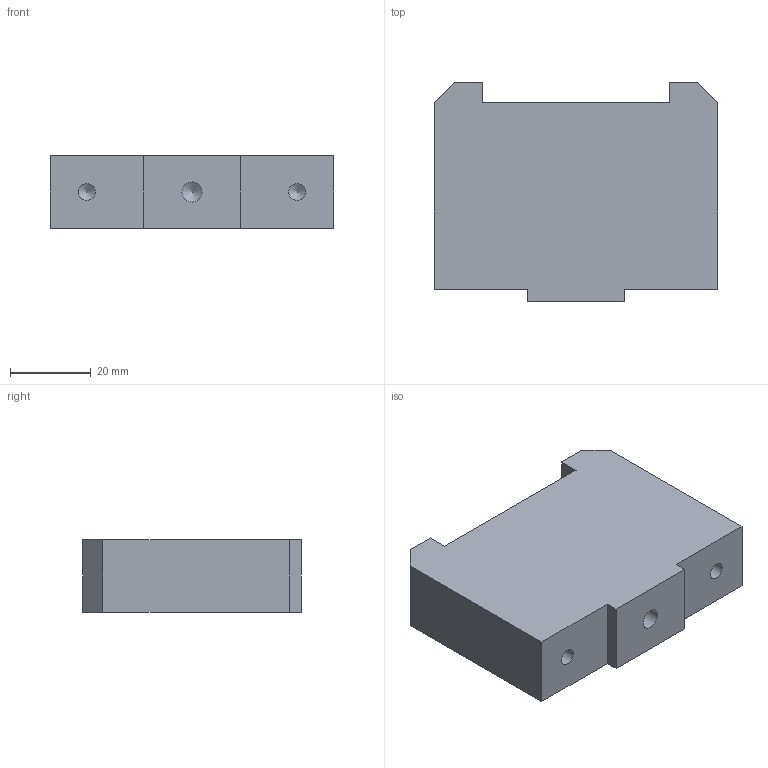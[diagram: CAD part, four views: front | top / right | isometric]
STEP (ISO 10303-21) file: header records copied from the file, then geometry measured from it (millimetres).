
FILE_DESCRIPTION((''),'2;1');
FILE_NAME('C:\Documents and Settings\hana-cad23\바탕 화면\390503E1005\390503E1005-블럭.stp','2019-05-25T11:34:01',('hana-cad23'),(''),'Autodesk Inventor 2013','Autodesk Inventor 2013','');
FILE_SCHEMA(('AUTOMOTIVE_DESIGN { 1 0 10303 214 1 1 1 1 }'));
Length unit declared in the file: millimetre
Products named in the file (1): 390503E1005-블럭
Bounding box: 70 x 54 x 18 mm (x, y, z)
Volume: 60190.9 mm3; surface area: 12004.6 mm2
Topology: 1 solids, 1 shells, 28 faces, 72 edges, 46 vertices
Faces by surface type: plane 16, cone 6, cylinder 6
Full cylindrical faces by diameter (mm): 4.134 x4, 5 x2
Entity records: 752 total; most frequent: DIRECTION 124, CARTESIAN_POINT 123, ORIENTED_EDGE 108, EDGE_CURVE 54, VECTOR 42, LINE 42, AXIS2_PLACEMENT_3D 41, VERTEX_POINT 40
